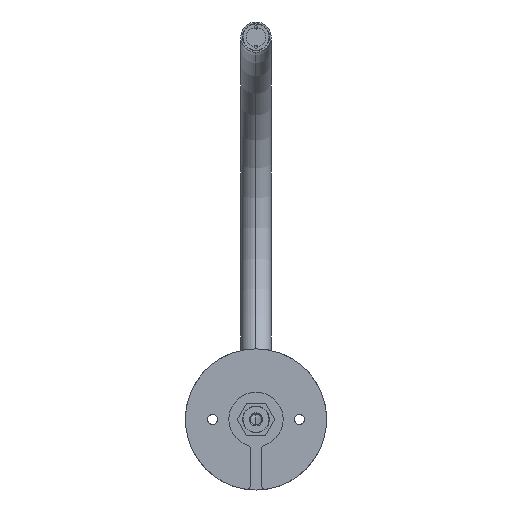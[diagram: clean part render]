
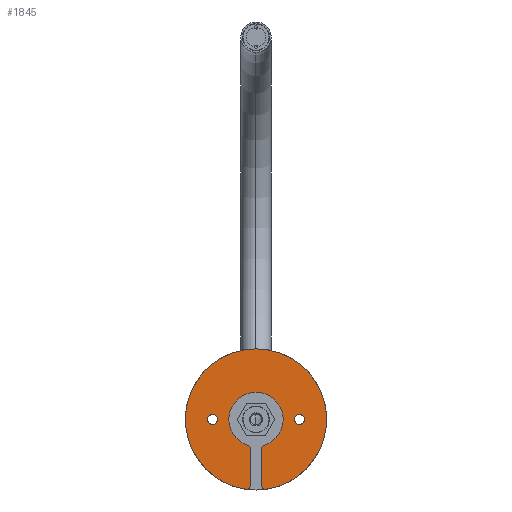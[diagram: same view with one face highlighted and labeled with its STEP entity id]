
A CAD part, front view. The second image highlights one B-rep face of the part: STEP entity #1845.
In plain terms, the highlighted planar face has unit normal (0, -1, 0).
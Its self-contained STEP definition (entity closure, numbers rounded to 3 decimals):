
#15 = CIRCLE ( 'NONE', #2871, 2. ) ;
#18 = ORIENTED_EDGE ( 'NONE', *, *, #403, .T. ) ;
#51 = CIRCLE ( 'NONE', #1449, 2. ) ;
#61 = DIRECTION ( 'NONE',  ( 0., 0., 1. ) ) ;
#92 = CARTESIAN_POINT ( 'NONE',  ( 20., 0., 0. ) ) ;
#139 = AXIS2_PLACEMENT_3D ( 'NONE', #2335, #980, #2363 ) ;
#142 = CIRCLE ( 'NONE', #139, 2.25 ) ;
#189 = DIRECTION ( 'NONE',  ( 0., -1., 0. ) ) ;
#196 = CARTESIAN_POINT ( 'NONE',  ( 0., 0., 0. ) ) ;
#212 = CARTESIAN_POINT ( 'NONE',  ( -4.5, 0., -13.784 ) ) ;
#276 = AXIS2_PLACEMENT_3D ( 'NONE', #2892, #189, #453 ) ;
#283 = ORIENTED_EDGE ( 'NONE', *, *, #2962, .T. ) ;
#292 = FACE_BOUND ( 'NONE', #2153, .T. ) ;
#309 = EDGE_CURVE ( 'NONE', #587, #339, #949, .T. ) ;
#339 = VERTEX_POINT ( 'NONE', #2770 ) ;
#346 = VERTEX_POINT ( 'NONE', #1378 ) ;
#360 = VERTEX_POINT ( 'NONE', #1668 ) ;
#389 = LINE ( 'NONE', #1646, #3472 ) ;
#394 = DIRECTION ( 'NONE',  ( 0., 0., 1. ) ) ;
#395 = CARTESIAN_POINT ( 'NONE',  ( 20., 0., 2.25 ) ) ;
#403 = EDGE_CURVE ( 'NONE', #664, #977, #1952, .T. ) ;
#408 = CARTESIAN_POINT ( 'NONE',  ( 4.5, 0., -32.166 ) ) ;
#414 = CARTESIAN_POINT ( 'NONE',  ( -3.879, 0., -11.883 ) ) ;
#435 = VERTEX_POINT ( 'NONE', #2234 ) ;
#453 = DIRECTION ( 'NONE',  ( 0., 0., 1. ) ) ;
#465 = CIRCLE ( 'NONE', #1579, 32.5 ) ;
#479 = CARTESIAN_POINT ( 'NONE',  ( 20., 0., 0. ) ) ;
#480 = ORIENTED_EDGE ( 'NONE', *, *, #1798, .T. ) ;
#523 = EDGE_CURVE ( 'NONE', #339, #3106, #1730, .T. ) ;
#540 = EDGE_LOOP ( 'NONE', ( #283, #1940 ) ) ;
#542 = ORIENTED_EDGE ( 'NONE', *, *, #947, .F. ) ;
#562 = CIRCLE ( 'NONE', #1140, 2.25 ) ;
#567 = CARTESIAN_POINT ( 'NONE',  ( 4.5, 0., -30.166 ) ) ;
#570 = DIRECTION ( 'NONE',  ( 0., 0., 1. ) ) ;
#571 = ORIENTED_EDGE ( 'NONE', *, *, #2451, .T. ) ;
#587 = VERTEX_POINT ( 'NONE', #1776 ) ;
#645 = CARTESIAN_POINT ( 'NONE',  ( -4.5, 0., -30.166 ) ) ;
#651 = VERTEX_POINT ( 'NONE', #395 ) ;
#664 = VERTEX_POINT ( 'NONE', #408 ) ;
#686 = DIRECTION ( 'NONE',  ( 0., 0., 1. ) ) ;
#691 = CARTESIAN_POINT ( 'NONE',  ( 0., 0., 0. ) ) ;
#753 = DIRECTION ( 'NONE',  ( 0., -1., 0. ) ) ;
#761 = DIRECTION ( 'NONE',  ( 0., 1., 0. ) ) ;
#828 = CARTESIAN_POINT ( 'NONE',  ( -20., 0., 0. ) ) ;
#845 = CIRCLE ( 'NONE', #1114, 12.5 ) ;
#947 = EDGE_CURVE ( 'NONE', #1993, #3106, #389, .T. ) ;
#949 = CIRCLE ( 'NONE', #276, 2. ) ;
#977 = VERTEX_POINT ( 'NONE', #2747 ) ;
#980 = DIRECTION ( 'NONE',  ( 0., 1., 0. ) ) ;
#1020 = VERTEX_POINT ( 'NONE', #1680 ) ;
#1077 = EDGE_CURVE ( 'NONE', #360, #1020, #562, .T. ) ;
#1100 = CARTESIAN_POINT ( 'NONE',  ( 4.5, 0., -30.166 ) ) ;
#1103 = ORIENTED_EDGE ( 'NONE', *, *, #1893, .T. ) ;
#1114 = AXIS2_PLACEMENT_3D ( 'NONE', #1177, #2784, #2254 ) ;
#1136 = VECTOR ( 'NONE', #1216, 1000. ) ;
#1140 = AXIS2_PLACEMENT_3D ( 'NONE', #828, #3280, #570 ) ;
#1150 = DIRECTION ( 'NONE',  ( 0., 0., 1. ) ) ;
#1177 = CARTESIAN_POINT ( 'NONE',  ( 0., 0., 0. ) ) ;
#1216 = DIRECTION ( 'NONE',  ( 0., 0., -1. ) ) ;
#1315 = VERTEX_POINT ( 'NONE', #414 ) ;
#1376 = ORIENTED_EDGE ( 'NONE', *, *, #3232, .T. ) ;
#1378 = CARTESIAN_POINT ( 'NONE',  ( 2.5, 0., -13.784 ) ) ;
#1432 = ORIENTED_EDGE ( 'NONE', *, *, #1438, .F. ) ;
#1436 = CARTESIAN_POINT ( 'NONE',  ( 3.879, 0., -11.883 ) ) ;
#1438 = EDGE_CURVE ( 'NONE', #435, #977, #2832, .T. ) ;
#1449 = AXIS2_PLACEMENT_3D ( 'NONE', #212, #753, #2127 ) ;
#1466 = DIRECTION ( 'NONE',  ( 0., 0., 1. ) ) ;
#1474 = ORIENTED_EDGE ( 'NONE', *, *, #1077, .T. ) ;
#1479 = AXIS2_PLACEMENT_3D ( 'NONE', #2881, #2038, #1466 ) ;
#1493 = DIRECTION ( 'NONE',  ( 0., 1., 0. ) ) ;
#1510 = PLANE ( 'NONE',  #2632 ) ;
#1579 = AXIS2_PLACEMENT_3D ( 'NONE', #2574, #1806, #2604 ) ;
#1598 = CARTESIAN_POINT ( 'NONE',  ( 2.5, 0., -30.166 ) ) ;
#1599 = ORIENTED_EDGE ( 'NONE', *, *, #523, .T. ) ;
#1646 = CARTESIAN_POINT ( 'NONE',  ( -2.5, 0., -3.574 ) ) ;
#1668 = CARTESIAN_POINT ( 'NONE',  ( -20., 0., -2.25 ) ) ;
#1680 = CARTESIAN_POINT ( 'NONE',  ( -20., 0., 2.25 ) ) ;
#1689 = DIRECTION ( 'NONE',  ( 0., -1., 0. ) ) ;
#1712 = CIRCLE ( 'NONE', #2317, 2.25 ) ;
#1721 = VERTEX_POINT ( 'NONE', #1758 ) ;
#1730 = CIRCLE ( 'NONE', #2422, 2. ) ;
#1758 = CARTESIAN_POINT ( 'NONE',  ( 20., 0., -2.25 ) ) ;
#1776 = CARTESIAN_POINT ( 'NONE',  ( -4.795, 0., -32.144 ) ) ;
#1798 = EDGE_CURVE ( 'NONE', #346, #3024, #3110, .T. ) ;
#1806 = DIRECTION ( 'NONE',  ( 0., 1., 0. ) ) ;
#1845 = ADVANCED_FACE ( 'NONE', ( #3269, #2216, #292 ), #1510, .F. ) ;
#1893 = EDGE_CURVE ( 'NONE', #2510, #346, #2766, .T. ) ;
#1935 = DIRECTION ( 'NONE',  ( 0., -1., 0. ) ) ;
#1937 = EDGE_CURVE ( 'NONE', #1020, #360, #142, .T. ) ;
#1940 = ORIENTED_EDGE ( 'NONE', *, *, #3188, .T. ) ;
#1952 = CIRCLE ( 'NONE', #3328, 2. ) ;
#1993 = VERTEX_POINT ( 'NONE', #2696 ) ;
#2038 = DIRECTION ( 'NONE',  ( 0., -1., 0. ) ) ;
#2127 = DIRECTION ( 'NONE',  ( 0., 0., 1. ) ) ;
#2153 = EDGE_LOOP ( 'NONE', ( #2713, #1474 ) ) ;
#2172 = DIRECTION ( 'NONE',  ( 0., 0., -1. ) ) ;
#2216 = FACE_BOUND ( 'NONE', #540, .T. ) ;
#2234 = CARTESIAN_POINT ( 'NONE',  ( 0., 0., 32.5 ) ) ;
#2254 = DIRECTION ( 'NONE',  ( 0., 0., 1. ) ) ;
#2283 = AXIS2_PLACEMENT_3D ( 'NONE', #479, #761, #2699 ) ;
#2317 = AXIS2_PLACEMENT_3D ( 'NONE', #92, #3347, #61 ) ;
#2320 = DIRECTION ( 'NONE',  ( 0., 1., 0. ) ) ;
#2335 = CARTESIAN_POINT ( 'NONE',  ( -20., 0., 0. ) ) ;
#2341 = EDGE_CURVE ( 'NONE', #1993, #1315, #51, .T. ) ;
#2363 = DIRECTION ( 'NONE',  ( 0., 0., 1. ) ) ;
#2422 = AXIS2_PLACEMENT_3D ( 'NONE', #645, #2542, #1150 ) ;
#2429 = EDGE_LOOP ( 'NONE', ( #2703, #2688, #1599, #542, #2545, #1376, #1103, #480, #571, #18, #1432 ) ) ;
#2440 = AXIS2_PLACEMENT_3D ( 'NONE', #196, #2320, #686 ) ;
#2451 = EDGE_CURVE ( 'NONE', #3024, #664, #15, .T. ) ;
#2453 = DIRECTION ( 'NONE',  ( 0., 0., 1. ) ) ;
#2461 = DIRECTION ( 'NONE',  ( 0., 0., 1. ) ) ;
#2510 = VERTEX_POINT ( 'NONE', #1436 ) ;
#2542 = DIRECTION ( 'NONE',  ( 0., -1., 0. ) ) ;
#2545 = ORIENTED_EDGE ( 'NONE', *, *, #2341, .T. ) ;
#2572 = CARTESIAN_POINT ( 'NONE',  ( 2.5, 0., -3.574 ) ) ;
#2574 = CARTESIAN_POINT ( 'NONE',  ( 0., 0., 0. ) ) ;
#2604 = DIRECTION ( 'NONE',  ( 0., 0., 1. ) ) ;
#2632 = AXIS2_PLACEMENT_3D ( 'NONE', #691, #1493, #394 ) ;
#2647 = EDGE_CURVE ( 'NONE', #587, #435, #465, .T. ) ;
#2671 = CIRCLE ( 'NONE', #2283, 2.25 ) ;
#2688 = ORIENTED_EDGE ( 'NONE', *, *, #309, .T. ) ;
#2696 = CARTESIAN_POINT ( 'NONE',  ( -2.5, 0., -13.784 ) ) ;
#2699 = DIRECTION ( 'NONE',  ( 0., 0., 1. ) ) ;
#2703 = ORIENTED_EDGE ( 'NONE', *, *, #2647, .F. ) ;
#2713 = ORIENTED_EDGE ( 'NONE', *, *, #1937, .T. ) ;
#2721 = CARTESIAN_POINT ( 'NONE',  ( -2.5, 0., -30.166 ) ) ;
#2747 = CARTESIAN_POINT ( 'NONE',  ( 4.795, 0., -32.144 ) ) ;
#2766 = CIRCLE ( 'NONE', #1479, 2. ) ;
#2770 = CARTESIAN_POINT ( 'NONE',  ( -4.5, 0., -32.166 ) ) ;
#2784 = DIRECTION ( 'NONE',  ( 0., 1., 0. ) ) ;
#2832 = CIRCLE ( 'NONE', #2440, 32.5 ) ;
#2871 = AXIS2_PLACEMENT_3D ( 'NONE', #567, #1935, #2453 ) ;
#2881 = CARTESIAN_POINT ( 'NONE',  ( 4.5, 0., -13.784 ) ) ;
#2892 = CARTESIAN_POINT ( 'NONE',  ( -4.5, 0., -30.166 ) ) ;
#2962 = EDGE_CURVE ( 'NONE', #651, #1721, #2671, .T. ) ;
#3024 = VERTEX_POINT ( 'NONE', #1598 ) ;
#3106 = VERTEX_POINT ( 'NONE', #2721 ) ;
#3110 = LINE ( 'NONE', #2572, #1136 ) ;
#3188 = EDGE_CURVE ( 'NONE', #1721, #651, #1712, .T. ) ;
#3232 = EDGE_CURVE ( 'NONE', #1315, #2510, #845, .T. ) ;
#3269 = FACE_OUTER_BOUND ( 'NONE', #2429, .T. ) ;
#3280 = DIRECTION ( 'NONE',  ( 0., 1., 0. ) ) ;
#3328 = AXIS2_PLACEMENT_3D ( 'NONE', #1100, #1689, #2461 ) ;
#3347 = DIRECTION ( 'NONE',  ( 0., 1., 0. ) ) ;
#3472 = VECTOR ( 'NONE', #2172, 1000. ) ;
